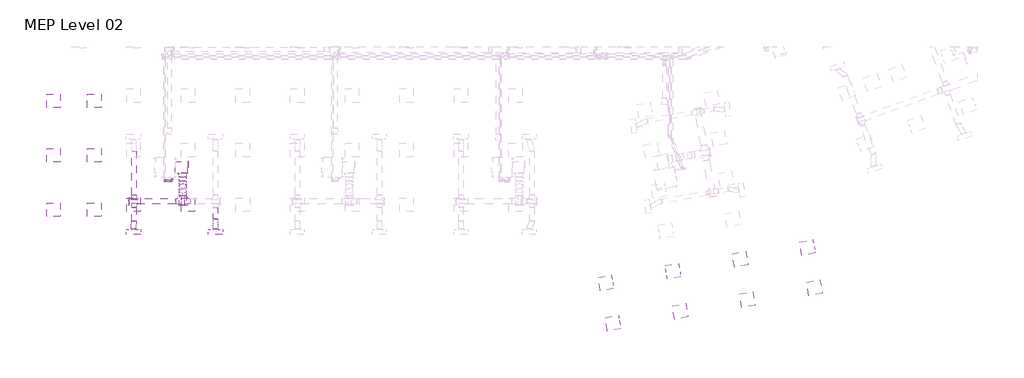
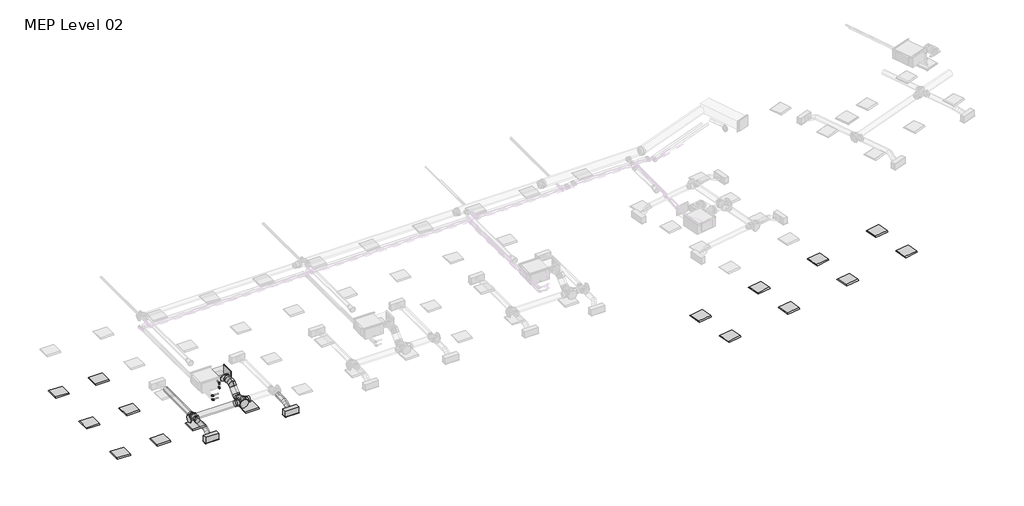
# One storey, part 1 of 26: 16 light fixtures, 10 duct fittings, 10 duct segments, 4 pipe fittings, 4 pipe segments, 2 air terminals.
"""IFC4 building model written with IfcOpenShell, lengths in millimetres."""

from ifc_helpers import new_model, si_unit, point, frame, frame_2d, origin, place, context, project, spatial, polyline, circle_curve, ellipse_curve, trimmed, segment, composite_curve, outline, extrude, transform, mapped, element, save
from ifc_brep_helpers import plane_surface, cylinder_surface, advanced_brep
from components import supply_diffuser_with_plenum_linear_slot_hosted_8c379eed, dw144_rectangular_blank_end_standard_8fde7d16, dw144_round_blank_end_standard_f82b0856, dw144_round_blank_end_standard_9aa061e7, dw144_round_segmented_bend_slip_joint_standard_8b80c5ae, dw144_round_shoe_branch_slip_joint_standard_15a2edd8, dw144_round_shoe_branch_slip_joint_standard_7ba9e4ed, dw144_round_shoe_branch_slip_joint_standard_67b64720, light_fixture_600x600_230_1c7c1157, light_fixture_600x600_230_b730b5ca, elbow_threaded_gmi_standard_b4aa7741

model = new_model("IFC4")

# Units and contexts
model_context = context("Model", 3, world=origin())
ifc_project = project(units=[si_unit("LENGTHUNIT", "METRE", prefix="MILLI")], contexts=[model_context])

# Site, building, storey
site = spatial("IfcSite", under=ifc_project)
building = spatial("IfcBuilding", under=site)
storey = spatial("IfcBuildingStorey", under=building, Name="MEP Level 02", Elevation=7800.0)

# Air terminals
placement = place(None, origin())
supply_diffuser_with_plenum_linear_slot_hosted_shape = supply_diffuser_with_plenum_linear_slot_hosted_8c379eed(model_context)
element("IfcAirTerminal", 1, ObjectType="Supply Diffuser with Plenum - Linear Slot - Hosted : 600mmx193.8mm-200 In Inlet  4-Slot", at=placement, inside=storey, context=model_context, shape_type="MappedRepresentation", body=[
    mapped(supply_diffuser_with_plenum_linear_slot_hosted_shape, transform((9162.2000027, 963.2000004, 10600.0), x_axis=(1.0, 0.0, 0.0), y_axis=(0.0, -1.0, 0.0), z_axis=(0.0, 0.0, -1.0))),
])
element("IfcAirTerminal", 2, ObjectType="Supply Diffuser with Plenum - Linear Slot - Hosted : 600mmx193.8mm-200 In Inlet  4-Slot", at=placement, inside=storey, context=model_context, shape_type="MappedRepresentation", body=[
    mapped(supply_diffuser_with_plenum_linear_slot_hosted_shape, transform((12762.2000027, 963.2000004, 10600.0), x_axis=(1.0, 0.0, 0.0), y_axis=(0.0, -1.0, 0.0), z_axis=(0.0, 0.0, -1.0))),
])

# Duct fittings
dw144_rectangular_blank_end_standard_shape = dw144_rectangular_blank_end_standard_8fde7d16(model_context)
element("IfcDuctFitting", 3, ObjectType="DW144 Rectangular Blank End : Standard", at=placement, inside=storey, context=model_context, shape_type="MappedRepresentation", body=[
    mapped(dw144_rectangular_blank_end_standard_shape, transform((11546.2561025, 3806.0000004, 11276.3911538), x_axis=(1.0, 0.0, 0.0), y_axis=(0.0, 1.0, 0.0), z_axis=(0.0, 0.0, 1.0))),
])
dw144_round_blank_end_standard_shape = dw144_round_blank_end_standard_f82b0856(model_context)
element("IfcDuctFitting", 4, ObjectType="DW144 Round Blank End : Standard", at=placement, inside=storey, context=model_context, shape_type="MappedRepresentation", body=[
    mapped(dw144_round_blank_end_standard_shape, transform((11331.4561025, 2142.9916128, 10872.2088531), x_axis=(0.0, -1.0, 0.0), y_axis=(1.0, 0.0, 0.0), z_axis=(0.0, 0.0, 1.0))),
])
dw144_round_blank_end_standard_2_shape = dw144_round_blank_end_standard_9aa061e7(model_context)
element("IfcDuctFitting", 5, ObjectType="DW144 Round Blank End : Standard", at=placement, inside=storey, context=model_context, shape_type="MappedRepresentation", body=[
    mapped(dw144_round_blank_end_standard_2_shape, transform((8961.4561025, 2306.5018192, 10872.2088531), x_axis=(-1.0, 0.0, 0.0), y_axis=(0.0, -1.0, 0.0), z_axis=(0.0, 0.0, 1.0))),
])
dw144_round_segmented_bend_slip_joint_standard_shape = dw144_round_segmented_bend_slip_joint_standard_8b80c5ae(model_context)
element("IfcDuctFitting", 6, ObjectType="DW144 Round Segmented Bend - Slip Joint : Standard", at=placement, inside=storey, context=model_context, shape_type="MappedRepresentation", body=[
    mapped(dw144_round_segmented_bend_slip_joint_standard_shape, transform((11331.4561025, 2678.6338536, 10872.2088531), x_axis=(0.0, -0.7071067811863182, -0.7071067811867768), y_axis=(0.0, 0.7071067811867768, -0.7071067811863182), z_axis=(1.0, 0.0, 0.0))),
])
element("IfcDuctFitting", 7, ObjectType="DW144 Round Segmented Bend - Slip Joint : Standard", at=placement, inside=storey, context=model_context, shape_type="MappedRepresentation", body=[
    mapped(dw144_round_segmented_bend_slip_joint_standard_shape, transform((11331.4561025, 3076.0000004, 11269.575), x_axis=(0.0, -1.0, 0.0), y_axis=(0.0, 0.0, 1.0), z_axis=(-1.0, 0.0, 0.0))),
])
dw144_round_shoe_branch_slip_joint_standard_shape = dw144_round_shoe_branch_slip_joint_standard_15a2edd8(model_context)
element("IfcDuctFitting", 8, ObjectType="DW144 Round Shoe Branch - Slip Joint : Standard", at=placement, inside=storey, context=model_context, shape_type="MappedRepresentation", body=[
    mapped(dw144_round_shoe_branch_slip_joint_standard_shape, transform((9173.9000022, 2181.5018192, 10872.2088531), x_axis=(0.0, -1.0, 0.0), y_axis=(-1.0, 0.0, 0.0), z_axis=(0.0, 0.0, -1.0))),
])
element("IfcDuctFitting", 9, ObjectType="DW144 Round Shoe Branch - Slip Joint : Standard", at=placement, inside=storey, context=model_context, shape_type="MappedRepresentation", body=[
    mapped(dw144_round_shoe_branch_slip_joint_standard_shape, transform((9173.9000022, 2431.5018192, 10872.2088531), x_axis=(0.0, 1.0, 0.0), y_axis=(-1.0, 0.0, 0.0), z_axis=(0.0, 0.0, 1.0))),
])
dw144_round_shoe_branch_slip_joint_standard_2_shape = dw144_round_shoe_branch_slip_joint_standard_7ba9e4ed(model_context)
element("IfcDuctFitting", 10, ObjectType="DW144 Round Shoe Branch - Slip Joint : Standard", at=placement, inside=storey, context=model_context, shape_type="MappedRepresentation", body=[
    mapped(dw144_round_shoe_branch_slip_joint_standard_2_shape, transform((11331.4561025, 3556.0000004, 11269.575), x_axis=(0.0, -1.0, 0.0), y_axis=(-1.0, 0.0, 0.0), z_axis=(0.0, 0.0, -1.0))),
])
dw144_round_shoe_branch_slip_joint_standard_3_shape = dw144_round_shoe_branch_slip_joint_standard_67b64720(model_context)
element("IfcDuctFitting", 11, ObjectType="DW144 Round Shoe Branch - Slip Joint : Standard", at=placement, inside=storey, context=model_context, shape_type="MappedRepresentation", body=[
    mapped(dw144_round_shoe_branch_slip_joint_standard_3_shape, transform((11481.4561025, 2306.5018192, 10872.2088531), x_axis=(1.0, 0.0, 0.0), y_axis=(0.0, -1.0, 0.0), z_axis=(0.0, 0.0, -1.0))),
])
element("IfcDuctFitting", 12, ObjectType="DW144 Round Shoe Branch - Slip Joint : Standard", at=placement, inside=storey, context=model_context, shape_type="MappedRepresentation", body=[
    mapped(dw144_round_shoe_branch_slip_joint_standard_3_shape, transform((11181.4561025, 2306.5018192, 10872.2088531), x_axis=(-1.0, 0.0, 0.0), y_axis=(0.0, -1.0, 0.0), z_axis=(0.0, 0.0, 1.0))),
])

# Duct segments
element("IfcDuctSegment", 13, ObjectType="DW144 Flanged Med Radius Bend / Shoe Branch", at=placement, inside=storey, context=model_context, shape_type="SweptSolid", body=[
    extrude(outline(polyline([(10993.0441119, 3556.0000004), (10993.0441119, 4056.0000004), (11546.2561025, 4056.0000004), (11546.2561025, 3556.0000004), (10993.0441119, 3556.0000004)])), frame((0.0, 0.0, 11101.3911538), z_axis=(0.0, 0.0, 1.0), x_axis=(1.0, 0.0, 0.0)), (0.0, 0.0, 1.0), 350.0),
])
element("IfcDuctSegment", 14, ObjectType="DW144 Segmented Bend / Shoe Branch", at=placement, inside=storey, context=model_context, shape_type="SweptSolid", body=[
    extrude(outline(composite_curve([segment(trimmed(circle_curve(frame_2d((11269.575, 11331.4561025)), 150.0), [point((11269.575, 11181.4561025))], [point((11119.575, 11331.4561025))], False, "CARTESIAN"), True, "CONTINUOUS"), segment(trimmed(circle_curve(frame_2d((11269.575, 11331.4561025)), 150.0), [point((11119.575, 11331.4561025))], [point((11269.575, 11481.4561025))], False, "CARTESIAN"), True, "CONTINUOUS"), segment(trimmed(circle_curve(frame_2d((11269.575, 11331.4561025)), 150.0), [point((11269.575, 11481.4561025))], [point((11419.575, 11331.4561025))], False, "CARTESIAN"), True, "CONTINUOUS"), segment(trimmed(circle_curve(frame_2d((11269.575, 11331.4561025)), 150.0), [point((11419.575, 11331.4561025))], [point((11269.575, 11181.4561025))], False, "CARTESIAN"), True, "CONTINUOUS")], self_intersect=False)), frame((0.0, 3200.2640691, 0.0), z_axis=(0.0, 1.0, 0.0), x_axis=(0.0, 0.0, 1.0)), (0.0, 0.0, 1.0), 180.7359313),
])
element("IfcDuctSegment", 15, ObjectType="DW144 Segmented Bend / Shoe Branch", at=placement, inside=storey, context=model_context, shape_type="SweptSolid", body=[
    extrude(outline(composite_curve([segment(trimmed(circle_curve(frame_2d((10872.2088531, 11331.4561025)), 150.0), [point((10872.2088531, 11181.4561025))], [point((10722.2088531, 11331.4561025))], False, "CARTESIAN"), True, "CONTINUOUS"), segment(trimmed(circle_curve(frame_2d((10872.2088531, 11331.4561025)), 150.0), [point((10722.2088531, 11331.4561025))], [point((10872.2088531, 11481.4561025))], False, "CARTESIAN"), True, "CONTINUOUS"), segment(trimmed(circle_curve(frame_2d((10872.2088531, 11331.4561025)), 150.0), [point((10872.2088531, 11481.4561025))], [point((11022.2088531, 11331.4561025))], False, "CARTESIAN"), True, "CONTINUOUS"), segment(trimmed(circle_curve(frame_2d((10872.2088531, 11331.4561025)), 150.0), [point((11022.2088531, 11331.4561025))], [point((10872.2088531, 11181.4561025))], False, "CARTESIAN"), True, "CONTINUOUS")], self_intersect=False)), frame((0.0, 2142.9916128, 0.0), z_axis=(0.0, 1.0, 0.0), x_axis=(0.0, 0.0, 1.0)), (0.0, 0.0, 1.0), 411.3781721),
])
element("IfcDuctSegment", 16, ObjectType="DW144 Segmented Bend / Shoe Branch", at=placement, inside=storey, context=model_context, shape_type="SweptSolid", body=[
    extrude(outline(composite_curve([segment(trimmed(circle_curve(frame_2d((0.0, -150.0)), 150.0), [point((-150.0, -150.0))], [point((0.0, 0.0))], False, "CARTESIAN"), True, "CONTINUOUS"), segment(trimmed(circle_curve(frame_2d((0.0, -150.0)), 150.0), [point((0.0, 0.0))], [point((150.0, -150.0))], False, "CARTESIAN"), True, "CONTINUOUS"), segment(trimmed(circle_curve(frame_2d((0.0, -150.0)), 150.0), [point((150.0, -150.0))], [point((0.0, -300.0))], False, "CARTESIAN"), True, "CONTINUOUS"), segment(trimmed(circle_curve(frame_2d((0.0, -150.0)), 150.0), [point((0.0, -300.0))], [point((-150.0, -150.0))], False, "CARTESIAN"), True, "CONTINUOUS")], self_intersect=False)), frame((11331.4561025, 2872.5678364, 10854.0108016), z_axis=(0.0, 0.7071067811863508, 0.7071067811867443), x_axis=(1.0, 0.0, 0.0)), (0.0, 0.0, 1.0), 313.4324567),
])
element("IfcDuctSegment", 17, ObjectType="DW144 Segmented Bend / Shoe Branch", at=placement, inside=storey, context=model_context, shape_type="SweptSolid", body=[
    extrude(outline(composite_curve([segment(trimmed(circle_curve(frame_2d((2306.5018192, 10872.2088531)), 125.0), [point((2431.5018192, 10872.2088531))], [point((2306.5018192, 10747.2088531))], False, "CARTESIAN"), True, "CONTINUOUS"), segment(trimmed(circle_curve(frame_2d((2306.5018192, 10872.2088531)), 125.0), [point((2306.5018192, 10747.2088531))], [point((2181.5018192, 10872.2088531))], False, "CARTESIAN"), True, "CONTINUOUS"), segment(trimmed(circle_curve(frame_2d((2306.5018192, 10872.2088531)), 125.0), [point((2181.5018192, 10872.2088531))], [point((2306.5018192, 10997.2088531))], False, "CARTESIAN"), True, "CONTINUOUS"), segment(trimmed(circle_curve(frame_2d((2306.5018192, 10872.2088531)), 125.0), [point((2306.5018192, 10997.2088531))], [point((2431.5018192, 10872.2088531))], False, "CARTESIAN"), True, "CONTINUOUS")], self_intersect=False)), frame((8961.4561025, 0.0, 0.0), z_axis=(1.0, 0.0, 0.0), x_axis=(0.0, 1.0, 0.0)), (0.0, 0.0, 1.0), 2045.0),
])
element("IfcDuctSegment", 18, ObjectType="DW144 Segmented Bend / Shoe Branch", at=placement, inside=storey, context=model_context, shape_type="SweptSolid", body=[
    extrude(outline(composite_curve([segment(trimmed(circle_curve(frame_2d((10872.2088531, 12773.9000022)), 100.0), [point((10872.2088531, 12673.9000022))], [point((10772.2088531, 12773.9000022))], False, "CARTESIAN"), True, "CONTINUOUS"), segment(trimmed(circle_curve(frame_2d((10872.2088531, 12773.9000022)), 100.0), [point((10772.2088531, 12773.9000022))], [point((10872.2088531, 12873.9000022))], False, "CARTESIAN"), True, "CONTINUOUS"), segment(trimmed(circle_curve(frame_2d((10872.2088531, 12773.9000022)), 100.0), [point((10872.2088531, 12873.9000022))], [point((10972.2088531, 12773.9000022))], False, "CARTESIAN"), True, "CONTINUOUS"), segment(trimmed(circle_curve(frame_2d((10872.2088531, 12773.9000022)), 100.0), [point((10972.2088531, 12773.9000022))], [point((10872.2088531, 12673.9000022))], False, "CARTESIAN"), True, "CONTINUOUS")], self_intersect=False)), frame((0.0, 1521.5018192, 0.0), z_axis=(0.0, 1.0, 0.0), x_axis=(0.0, 0.0, 1.0)), (0.0, 0.0, 1.0), 510.0),
])
element("IfcDuctSegment", 19, ObjectType="DW144 Segmented Bend / Shoe Branch", at=placement, inside=storey, context=model_context, shape_type="SweptSolid", body=[
    extrude(outline(composite_curve([segment(trimmed(circle_curve(frame_2d((10872.2088531, 9173.9000022)), 100.0), [point((10872.2088531, 9273.9000022))], [point((10972.2088531, 9173.9000022))], False, "CARTESIAN"), True, "CONTINUOUS"), segment(trimmed(circle_curve(frame_2d((10872.2088531, 9173.9000022)), 100.0), [point((10972.2088531, 9173.9000022))], [point((10872.2088531, 9073.9000022))], False, "CARTESIAN"), True, "CONTINUOUS"), segment(trimmed(circle_curve(frame_2d((10872.2088531, 9173.9000022)), 100.0), [point((10872.2088531, 9073.9000022))], [point((10772.2088531, 9173.9000022))], False, "CARTESIAN"), True, "CONTINUOUS"), segment(trimmed(circle_curve(frame_2d((10872.2088531, 9173.9000022)), 100.0), [point((10772.2088531, 9173.9000022))], [point((10872.2088531, 9273.9000022))], False, "CARTESIAN"), True, "CONTINUOUS")], self_intersect=False)), frame((0.0, 1441.5018192, 0.0), z_axis=(0.0, 1.0, 0.0), x_axis=(0.0, 0.0, 1.0)), (0.0, 0.0, 1.0), 590.0),
])
element("IfcDuctSegment", 20, ObjectType="DW144 Segmented Bend / Shoe Branch", at=placement, inside=storey, context=model_context, shape_type="SweptSolid", body=[
    extrude(outline(composite_curve([segment(trimmed(circle_curve(frame_2d((10872.2088531, 9173.9000022)), 100.0), [point((10872.2088531, 9273.9000022))], [point((10972.2088531, 9173.9000022))], False, "CARTESIAN"), True, "CONTINUOUS"), segment(trimmed(circle_curve(frame_2d((10872.2088531, 9173.9000022)), 100.0), [point((10972.2088531, 9173.9000022))], [point((10872.2088531, 9073.9000022))], False, "CARTESIAN"), True, "CONTINUOUS"), segment(trimmed(circle_curve(frame_2d((10872.2088531, 9173.9000022)), 100.0), [point((10872.2088531, 9073.9000022))], [point((10772.2088531, 9173.9000022))], False, "CARTESIAN"), True, "CONTINUOUS"), segment(trimmed(circle_curve(frame_2d((10872.2088531, 9173.9000022)), 100.0), [point((10772.2088531, 9173.9000022))], [point((10872.2088531, 9273.9000022))], False, "CARTESIAN"), True, "CONTINUOUS")], self_intersect=False)), frame((0.0, 2581.5018192, 0.0), z_axis=(0.0, 1.0, 0.0), x_axis=(0.0, 0.0, 1.0)), (0.0, 0.0, 1.0), 1950.0),
])
element("IfcDuctSegment", 21, ObjectType="Flex - Round", at=placement, inside=storey, context=model_context, shape_type="AdvancedBrep", body=[
    advanced_brep(
    [(9273.9000022, 1441.5018192, 10872.2088531), (9173.9000022, 1441.5018192, 10772.2088531), (9073.9000022, 1441.5018192, 10872.2088531), (9173.9000022, 1441.5018192, 10972.2088531), (9273.9000022, 1419.9886644, 10872.2088531), (9173.9000022, 1434.4041273, 10772.2088531), (9073.9000022, 1422.5932881, 10872.2088531), (9173.9000022, 1408.1778252, 10972.2088531), (9262.2000027, 1092.1000004, 10754.4), (9162.2000027, 1092.1000004, 10854.4), (9062.2000027, 1092.1000004, 10754.4), (9162.2000027, 1092.1000004, 10654.4), (9272.0154345, 1348.8904029, 10853.2328893), (9172.6402079, 1386.8764181, 10759.5238159), (9072.1283201, 1355.7538157, 10854.3695504), (9171.5035467, 1317.7678004, 10948.0786237), (9267.9552415, 1262.5544078, 10812.3502664), (9169.0041626, 1309.5595036, 10722.9119919), (9068.1447633, 1271.0474118, 10814.2585867), (9167.0958423, 1224.0423161, 10903.6968612), (9263.9716847, 1177.8480039, 10772.2393027), (9164.5964582, 1215.8340192, 10678.5302294), (9064.0845704, 1184.7114168, 10773.3759639), (9163.459797, 1146.7254015, 10867.0850372), (9262.2000027, 1111.0085316, 10754.4), (9162.2000027, 1125.4239944, 10654.4), (9062.2000027, 1113.6131552, 10754.4), (9162.2000027, 1099.1976924, 10854.4)],
    [
        (0, 1, circle_curve(frame((9173.9000022, 1441.5018192, 10872.2088531), z_axis=(0.0, 1.0, 0.0), x_axis=(1.0, 0.0, 0.0)), 100.0)),
        (1, 2, circle_curve(frame((9173.9000022, 1441.5018192, 10872.2088531), z_axis=(0.0, 1.0, 0.0), x_axis=(1.0, 0.0, 0.0)), 100.0)),
        (2, 3, circle_curve(frame((9173.9000022, 1441.5018192, 10872.2088531), z_axis=(0.0, 1.0, 0.0), x_axis=(1.0, 0.0, 0.0)), 100.0)),
        (3, 0, circle_curve(frame((9173.9000022, 1441.5018192, 10872.2088531), z_axis=(0.0, 1.0, 0.0), x_axis=(1.0, 0.0, 0.0)), 100.0)),
        (0, 4),
        (4, 5, ellipse_curve(frame((9173.9000022, 1421.2909763, 10872.2088531), z_axis=(0.01291149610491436, 0.9914289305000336, 0.13000757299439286), x_axis=(-0.09798018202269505, 0.1306471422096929, -0.9865754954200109)), 100.8645168, 100.0)),
        (5, 1),
        (5, 6, ellipse_curve(frame((9173.9000022, 1421.2909763, 10872.2088531), z_axis=(0.01291149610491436, 0.9914289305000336, 0.13000757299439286), x_axis=(-0.09798018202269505, 0.1306471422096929, -0.9865754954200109)), 100.8645168, 100.0)),
        (6, 2),
        (6, 7, ellipse_curve(frame((9173.9000022, 1421.2909763, 10872.2088531), z_axis=(0.01291149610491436, 0.9914289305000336, 0.13000757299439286), x_axis=(-0.09798018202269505, 0.1306471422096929, -0.9865754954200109)), 100.8645168, 100.0)),
        (7, 3),
        (7, 4, ellipse_curve(frame((9173.9000022, 1421.2909763, 10872.2088531), z_axis=(0.01291149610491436, 0.9914289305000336, 0.13000757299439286), x_axis=(-0.09798018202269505, 0.1306471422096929, -0.9865754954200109)), 100.8645168, 100.0)),
        (8, 9, circle_curve(frame((9162.2000027, 1092.1000004, 10754.4), z_axis=(0.0, -1.0, 0.0), x_axis=(1.0, 0.0, 0.0)), 100.0)),
        (9, 10, circle_curve(frame((9162.2000027, 1092.1000004, 10754.4), z_axis=(0.0, -1.0, 0.0), x_axis=(1.0, 0.0, 0.0)), 100.0)),
        (10, 11, circle_curve(frame((9162.2000027, 1092.1000004, 10754.4), z_axis=(0.0, -1.0, 0.0), x_axis=(1.0, 0.0, 0.0)), 100.0)),
        (11, 8, circle_curve(frame((9162.2000027, 1092.1000004, 10754.4), z_axis=(0.0, -1.0, 0.0), x_axis=(1.0, 0.0, 0.0)), 100.0)),
        (4, 12),
        (12, 13, ellipse_curve(frame((9172.0718773, 1352.3221093, 10853.8012198), z_axis=(0.03417490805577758, 0.9383065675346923, 0.34411169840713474), x_axis=(-0.09273024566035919, 0.34580454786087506, -0.9337131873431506)), 100.4159667, 100.0)),
        (13, 5),
        (13, 14, ellipse_curve(frame((9172.0718773, 1352.3221093, 10853.8012198), z_axis=(0.03417490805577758, 0.9383065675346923, 0.34411169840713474), x_axis=(-0.09273024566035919, 0.34580454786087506, -0.9337131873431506)), 100.4159667, 100.0)),
        (14, 6),
        (14, 15, ellipse_curve(frame((9172.0718773, 1352.3221093, 10853.8012198), z_axis=(0.03417490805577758, 0.9383065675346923, 0.34411169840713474), x_axis=(-0.09273024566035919, 0.34580454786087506, -0.9337131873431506)), 100.4159667, 100.0)),
        (15, 7),
        (15, 12, ellipse_curve(frame((9172.0718773, 1352.3221093, 10853.8012198), z_axis=(0.03417490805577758, 0.9383065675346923, 0.34411169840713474), x_axis=(-0.09273024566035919, 0.34580454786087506, -0.9337131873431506)), 100.4159667, 100.0)),
        (12, 16),
        (16, 17, circle_curve(frame((9168.0500024, 1266.8009098, 10813.3044266), z_axis=(0.04246501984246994, 0.9029767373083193, 0.42758593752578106), x_axis=(0.999052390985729, -0.042465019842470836, -0.009541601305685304)), 100.0)),
        (17, 13),
        (17, 18, circle_curve(frame((9168.0500024, 1266.8009098, 10813.3044266), z_axis=(0.04246501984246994, 0.9029767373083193, 0.42758593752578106), x_axis=(0.999052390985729, -0.042465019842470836, -0.009541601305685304)), 100.0)),
        (18, 14),
        (18, 19, circle_curve(frame((9168.0500024, 1266.8009098, 10813.3044266), z_axis=(0.04246501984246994, 0.9029767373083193, 0.42758593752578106), x_axis=(0.999052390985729, -0.042465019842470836, -0.009541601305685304)), 100.0)),
        (19, 15),
        (19, 16, circle_curve(frame((9168.0500024, 1266.8009098, 10813.3044266), z_axis=(0.04246501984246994, 0.9029767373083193, 0.42758593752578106), x_axis=(0.999052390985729, -0.042465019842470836, -0.009541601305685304)), 100.0)),
        (16, 20),
        (20, 21, ellipse_curve(frame((9164.0281276, 1181.2797104, 10772.8076333), z_axis=(0.03417490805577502, 0.9383065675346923, 0.3441116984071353), x_axis=(0.09273024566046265, -0.34580454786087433, 0.9337131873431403)), 100.4159667, 100.0)),
        (21, 17),
        (21, 22, ellipse_curve(frame((9164.0281276, 1181.2797104, 10772.8076333), z_axis=(0.03417490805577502, 0.9383065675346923, 0.3441116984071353), x_axis=(0.09273024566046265, -0.34580454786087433, 0.9337131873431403)), 100.4159667, 100.0)),
        (22, 18),
        (22, 23, ellipse_curve(frame((9164.0281276, 1181.2797104, 10772.8076333), z_axis=(0.03417490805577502, 0.9383065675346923, 0.3441116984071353), x_axis=(0.09273024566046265, -0.34580454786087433, 0.9337131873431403)), 100.4159667, 100.0)),
        (23, 19),
        (23, 20, ellipse_curve(frame((9164.0281276, 1181.2797104, 10772.8076333), z_axis=(0.03417490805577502, 0.9383065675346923, 0.3441116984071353), x_axis=(0.09273024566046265, -0.34580454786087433, 0.9337131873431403)), 100.4159667, 100.0)),
        (20, 24),
        (24, 25, ellipse_curve(frame((9162.2000027, 1112.3108434, 10754.4), z_axis=(0.012911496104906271, 0.9914289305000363, 0.13000757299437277), x_axis=(0.09798018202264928, -0.1306471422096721, 0.9865754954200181)), 100.8645168, 100.0)),
        (25, 21),
        (25, 26, ellipse_curve(frame((9162.2000027, 1112.3108434, 10754.4), z_axis=(0.012911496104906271, 0.9914289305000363, 0.13000757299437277), x_axis=(0.09798018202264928, -0.1306471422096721, 0.9865754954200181)), 100.8645168, 100.0)),
        (26, 22),
        (26, 27, ellipse_curve(frame((9162.2000027, 1112.3108434, 10754.4), z_axis=(0.012911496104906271, 0.9914289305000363, 0.13000757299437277), x_axis=(0.09798018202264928, -0.1306471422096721, 0.9865754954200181)), 100.8645168, 100.0)),
        (27, 23),
        (27, 24, ellipse_curve(frame((9162.2000027, 1112.3108434, 10754.4), z_axis=(0.012911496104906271, 0.9914289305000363, 0.13000757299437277), x_axis=(0.09798018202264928, -0.1306471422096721, 0.9865754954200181)), 100.8645168, 100.0)),
        (24, 8),
        (11, 25),
        (10, 26),
        (9, 27),
    ],
    [
        plane_surface(frame((9073.9000022, 1441.5018192, 10872.2088531), z_axis=(0.0, 1.0, 0.0), x_axis=(0.0, 0.0, -1.0))),
        cylinder_surface(frame((9173.9000022, 1441.5018192, 10872.2088531), z_axis=(0.0, 1.0, 0.0), x_axis=(1.0, 0.0, 0.0)), 100.0),
        plane_surface(frame((9062.2000027, 1092.1000004, 10754.4), z_axis=(0.0, -1.0, 0.0), x_axis=(0.0, 0.0, -1.0))),
        cylinder_surface(frame((9173.9000022, 1421.2909763, 10872.2088531), z_axis=(0.02560166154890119, 0.9658626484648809, 0.25778653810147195), x_axis=(0.9996665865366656, -0.02560166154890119, -0.0033571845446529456)), 100.0),
        cylinder_surface(frame((9172.0718773, 1352.3221093, 10853.8012198), z_axis=(0.04246501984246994, 0.9029767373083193, 0.42758593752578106), x_axis=(0.999052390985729, -0.042465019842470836, -0.009541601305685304)), 100.0),
        cylinder_surface(frame((9168.0500024, 1266.8009098, 10813.3044266), z_axis=(0.042465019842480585, 0.902976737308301, 0.42758593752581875), x_axis=(0.9990523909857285, -0.042465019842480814, -0.009541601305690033)), 100.0),
        cylinder_surface(frame((9164.0281276, 1181.2797104, 10772.8076333), z_axis=(0.025601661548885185, 0.9658626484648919, 0.25778653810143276), x_axis=(0.9996665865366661, -0.025601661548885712, -0.00335718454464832)), 100.0),
        cylinder_surface(frame((9162.2000027, 1112.3108434, 10754.4), z_axis=(0.0, 1.0, 0.0), x_axis=(1.0, 0.0, 0.0)), 100.0),
    ],
    [
        (0, [[1, 2, 3, 4]]),
        (1, [[-1, 5, 6, 7]]),
        (1, [[-2, -7, 8, 9]]),
        (1, [[-3, -9, 10, 11]]),
        (1, [[-4, -11, 12, -5]]),
        (2, [[13, 14, 15, 16]]),
        (3, [[-6, 17, 18, 19]]),
        (3, [[-8, -19, 20, 21]]),
        (3, [[-10, -21, 22, 23]]),
        (3, [[-12, -23, 24, -17]]),
        (4, [[-18, 25, 26, 27]]),
        (4, [[-20, -27, 28, 29]]),
        (4, [[-22, -29, 30, 31]]),
        (4, [[-24, -31, 32, -25]]),
        (5, [[-26, 33, 34, 35]]),
        (5, [[-28, -35, 36, 37]]),
        (5, [[-30, -37, 38, 39]]),
        (5, [[-32, -39, 40, -33]]),
        (6, [[-34, 41, 42, 43]]),
        (6, [[-36, -43, 44, 45]]),
        (6, [[-38, -45, 46, 47]]),
        (6, [[-40, -47, 48, -41]]),
        (7, [[-42, 49, -16, 50]]),
        (7, [[-44, -50, -15, 51]]),
        (7, [[-46, -51, -14, 52]]),
        (7, [[-48, -52, -13, -49]]),
    ],
),
])
element("IfcDuctSegment", 22, ObjectType="Flex - Round", at=placement, inside=storey, context=model_context, shape_type="AdvancedBrep", body=[
    advanced_brep(
    [(12873.9000022, 1521.5018192, 10872.2088531), (12773.9000022, 1521.5018192, 10772.2088531), (12673.9000022, 1521.5018192, 10872.2088531), (12773.9000022, 1521.5018192, 10972.2088531), (12873.9000022, 1503.8483968, 10872.2088531), (12773.9000022, 1514.716186, 10772.2088531), (12673.9000022, 1505.8120174, 10872.2088531), (12773.9000022, 1494.9442282, 10972.2088531), (12862.2000027, 1092.1000004, 10754.4), (12762.2000027, 1092.1000004, 10854.4), (12662.2000027, 1092.1000004, 10754.4), (12762.2000027, 1092.1000004, 10654.4), (12872.0365094, 1409.8841765, 10853.4450953), (12772.4280018, 1440.492465, 10757.3870846), (12672.1072452, 1415.4145623, 10854.1573443), (12771.7157528, 1384.8062738, 10950.2153551), (12867.9849454, 1303.2543522, 10812.6493581), (12768.7050709, 1342.5116705, 10719.9003985), (12668.1150595, 1310.3474674, 10813.9594951), (12767.3949339, 1271.0901491, 10906.7084546), (12863.9927597, 1198.1872573, 10772.4515088), (12764.3842521, 1228.7955458, 10676.3934981), (12664.0634955, 1203.7176431, 10773.1637578), (12763.6720031, 1173.1093547, 10869.2217685), (12862.2000027, 1107.7898022, 10754.4), (12762.2000027, 1118.6575914, 10654.4), (12662.2000027, 1109.7534229, 10754.4), (12762.2000027, 1098.8856336, 10854.4)],
    [
        (0, 1, circle_curve(frame((12773.9000022, 1521.5018192, 10872.2088531), z_axis=(0.0, 1.0, 0.0), x_axis=(1.0, 0.0, 0.0)), 100.0)),
        (1, 2, circle_curve(frame((12773.9000022, 1521.5018192, 10872.2088531), z_axis=(0.0, 1.0, 0.0), x_axis=(1.0, 0.0, 0.0)), 100.0)),
        (2, 3, circle_curve(frame((12773.9000022, 1521.5018192, 10872.2088531), z_axis=(0.0, 1.0, 0.0), x_axis=(1.0, 0.0, 0.0)), 100.0)),
        (3, 0, circle_curve(frame((12773.9000022, 1521.5018192, 10872.2088531), z_axis=(0.0, 1.0, 0.0), x_axis=(1.0, 0.0, 0.0)), 100.0)),
        (0, 4),
        (4, 5, ellipse_curve(frame((12773.9000022, 1504.8302071, 10872.2088531), z_axis=(0.009770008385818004, 0.9951014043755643, 0.09837551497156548), x_axis=(-0.09834312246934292, 0.09885947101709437, -0.9902299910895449)), 100.492271, 100.0)),
        (5, 1),
        (5, 6, ellipse_curve(frame((12773.9000022, 1504.8302071, 10872.2088531), z_axis=(0.009770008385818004, 0.9951014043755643, 0.09837551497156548), x_axis=(-0.09834312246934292, 0.09885947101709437, -0.9902299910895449)), 100.492271, 100.0)),
        (6, 2),
        (6, 7, ellipse_curve(frame((12773.9000022, 1504.8302071, 10872.2088531), z_axis=(0.009770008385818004, 0.9951014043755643, 0.09837551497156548), x_axis=(-0.09834312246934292, 0.09885947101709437, -0.9902299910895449)), 100.492271, 100.0)),
        (7, 3),
        (7, 4, ellipse_curve(frame((12773.9000022, 1504.8302071, 10872.2088531), z_axis=(0.009770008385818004, 0.9951014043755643, 0.09837551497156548), x_axis=(-0.09834312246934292, 0.09885947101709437, -0.9902299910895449)), 100.492271, 100.0)),
        (8, 9, circle_curve(frame((12762.2000027, 1092.1000004, 10754.4), z_axis=(0.0, -1.0, 0.0), x_axis=(1.0, 0.0, 0.0)), 100.0)),
        (9, 10, circle_curve(frame((12762.2000027, 1092.1000004, 10754.4), z_axis=(0.0, -1.0, 0.0), x_axis=(1.0, 0.0, 0.0)), 100.0)),
        (10, 11, circle_curve(frame((12762.2000027, 1092.1000004, 10754.4), z_axis=(0.0, -1.0, 0.0), x_axis=(1.0, 0.0, 0.0)), 100.0)),
        (11, 8, circle_curve(frame((12762.2000027, 1092.1000004, 10754.4), z_axis=(0.0, -1.0, 0.0), x_axis=(1.0, 0.0, 0.0)), 100.0)),
        (4, 12),
        (12, 13, ellipse_curve(frame((12772.0718773, 1412.6493694, 10853.8012198), z_axis=(0.027553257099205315, 0.960348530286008, 0.27743741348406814), x_axis=(-0.09490859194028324, 0.278802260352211, -0.955647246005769)), 100.358114, 100.0)),
        (13, 5),
        (13, 14, ellipse_curve(frame((12772.0718773, 1412.6493694, 10853.8012198), z_axis=(0.027553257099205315, 0.960348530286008, 0.27743741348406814), x_axis=(-0.09490859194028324, 0.278802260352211, -0.955647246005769)), 100.358114, 100.0)),
        (14, 6),
        (14, 15, ellipse_curve(frame((12772.0718773, 1412.6493694, 10853.8012198), z_axis=(0.027553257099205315, 0.960348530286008, 0.27743741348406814), x_axis=(-0.09490859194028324, 0.278802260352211, -0.955647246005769)), 100.358114, 100.0)),
        (15, 7),
        (15, 12, ellipse_curve(frame((12772.0718773, 1412.6493694, 10853.8012198), z_axis=(0.027553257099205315, 0.960348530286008, 0.27743741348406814), x_axis=(-0.09490859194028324, 0.278802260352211, -0.955647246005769)), 100.358114, 100.0)),
        (12, 16),
        (16, 17, circle_curve(frame((12768.0500024, 1306.8009098, 10813.3044266), z_axis=(0.035465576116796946, 0.9333897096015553, 0.3571076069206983), x_axis=(0.9993494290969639, -0.03546557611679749, -0.006550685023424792)), 100.0)),
        (17, 13),
        (17, 18, circle_curve(frame((12768.0500024, 1306.8009098, 10813.3044266), z_axis=(0.035465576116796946, 0.9333897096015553, 0.3571076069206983), x_axis=(0.9993494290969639, -0.03546557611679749, -0.006550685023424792)), 100.0)),
        (18, 14),
        (18, 19, circle_curve(frame((12768.0500024, 1306.8009098, 10813.3044266), z_axis=(0.035465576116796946, 0.9333897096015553, 0.3571076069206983), x_axis=(0.9993494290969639, -0.03546557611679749, -0.006550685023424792)), 100.0)),
        (19, 15),
        (19, 16, circle_curve(frame((12768.0500024, 1306.8009098, 10813.3044266), z_axis=(0.035465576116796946, 0.9333897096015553, 0.3571076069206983), x_axis=(0.9993494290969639, -0.03546557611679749, -0.006550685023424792)), 100.0)),
        (16, 20),
        (20, 21, ellipse_curve(frame((12764.0281276, 1200.9524502, 10772.8076333), z_axis=(0.027553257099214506, 0.9603485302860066, 0.27743741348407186), x_axis=(0.09490859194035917, -0.27880226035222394, 0.9556472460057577)), 100.358114, 100.0)),
        (21, 17),
        (21, 22, ellipse_curve(frame((12764.0281276, 1200.9524502, 10772.8076333), z_axis=(0.027553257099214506, 0.9603485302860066, 0.27743741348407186), x_axis=(0.09490859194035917, -0.27880226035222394, 0.9556472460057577)), 100.358114, 100.0)),
        (22, 18),
        (22, 23, ellipse_curve(frame((12764.0281276, 1200.9524502, 10772.8076333), z_axis=(0.027553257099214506, 0.9603485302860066, 0.27743741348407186), x_axis=(0.09490859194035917, -0.27880226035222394, 0.9556472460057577)), 100.358114, 100.0)),
        (23, 19),
        (23, 20, ellipse_curve(frame((12764.0281276, 1200.9524502, 10772.8076333), z_axis=(0.027553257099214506, 0.9603485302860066, 0.27743741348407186), x_axis=(0.09490859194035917, -0.27880226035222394, 0.9556472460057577)), 100.358114, 100.0)),
        (20, 24),
        (24, 25, ellipse_curve(frame((12762.2000027, 1108.7716125, 10754.4), z_axis=(0.009770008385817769, 0.9951014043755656, 0.09837551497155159), x_axis=(0.09834312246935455, -0.09885947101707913, 0.9902299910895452)), 100.492271, 100.0)),
        (25, 21),
        (25, 26, ellipse_curve(frame((12762.2000027, 1108.7716125, 10754.4), z_axis=(0.009770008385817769, 0.9951014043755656, 0.09837551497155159), x_axis=(0.09834312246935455, -0.09885947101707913, 0.9902299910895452)), 100.492271, 100.0)),
        (26, 22),
        (26, 27, ellipse_curve(frame((12762.2000027, 1108.7716125, 10754.4), z_axis=(0.009770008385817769, 0.9951014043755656, 0.09837551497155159), x_axis=(0.09834312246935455, -0.09885947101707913, 0.9902299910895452)), 100.492271, 100.0)),
        (27, 23),
        (27, 24, ellipse_curve(frame((12762.2000027, 1108.7716125, 10754.4), z_axis=(0.009770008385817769, 0.9951014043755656, 0.09837551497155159), x_axis=(0.09834312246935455, -0.09885947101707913, 0.9902299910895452)), 100.492271, 100.0)),
        (24, 8),
        (11, 25),
        (10, 26),
        (9, 27),
    ],
    [
        plane_surface(frame((12673.9000022, 1521.5018192, 10872.2088531), z_axis=(0.0, 1.0, 0.0), x_axis=(0.0, 0.0, -1.0))),
        cylinder_surface(frame((12773.9000022, 1521.5018192, 10872.2088531), z_axis=(0.0, 1.0, 0.0), x_axis=(1.0, 0.0, 0.0)), 100.0),
        plane_surface(frame((12662.2000027, 1092.1000004, 10754.4), z_axis=(0.0, -1.0, 0.0), x_axis=(0.0, 0.0, -1.0))),
        cylinder_surface(frame((12773.9000022, 1504.8302071, 10872.2088531), z_axis=(0.019444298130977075, 0.9804536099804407, 0.19578722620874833), x_axis=(0.9998090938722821, -0.019444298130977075, -0.0019222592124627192)), 100.0),
        cylinder_surface(frame((12772.0718773, 1412.6493694, 10853.8012198), z_axis=(0.035465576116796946, 0.9333897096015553, 0.3571076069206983), x_axis=(0.9993494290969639, -0.03546557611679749, -0.006550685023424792)), 100.0),
        cylinder_surface(frame((12768.0500024, 1306.8009098, 10813.3044266), z_axis=(0.03546557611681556, 0.9333897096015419, 0.35710760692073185), x_axis=(0.9993494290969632, -0.03546557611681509, -0.006550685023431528)), 100.0),
        cylinder_surface(frame((12764.0281276, 1200.9524502, 10772.8076333), z_axis=(0.019444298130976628, 0.9804536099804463, 0.19578722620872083), x_axis=(0.9998090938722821, -0.019444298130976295, -0.0019222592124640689)), 100.0),
        cylinder_surface(frame((12762.2000027, 1108.7716125, 10754.4), z_axis=(0.0, 1.0, 0.0), x_axis=(1.0, 0.0, 0.0)), 100.0),
    ],
    [
        (0, [[1, 2, 3, 4]]),
        (1, [[-1, 5, 6, 7]]),
        (1, [[-2, -7, 8, 9]]),
        (1, [[-3, -9, 10, 11]]),
        (1, [[-4, -11, 12, -5]]),
        (2, [[13, 14, 15, 16]]),
        (3, [[-6, 17, 18, 19]]),
        (3, [[-8, -19, 20, 21]]),
        (3, [[-10, -21, 22, 23]]),
        (3, [[-12, -23, 24, -17]]),
        (4, [[-18, 25, 26, 27]]),
        (4, [[-20, -27, 28, 29]]),
        (4, [[-22, -29, 30, 31]]),
        (4, [[-24, -31, 32, -25]]),
        (5, [[-26, 33, 34, 35]]),
        (5, [[-28, -35, 36, 37]]),
        (5, [[-30, -37, 38, 39]]),
        (5, [[-32, -39, 40, -33]]),
        (6, [[-34, 41, 42, 43]]),
        (6, [[-36, -43, 44, 45]]),
        (6, [[-38, -45, 46, 47]]),
        (6, [[-40, -47, 48, -41]]),
        (7, [[-42, 49, -16, 50]]),
        (7, [[-44, -50, -15, 51]]),
        (7, [[-46, -51, -14, 52]]),
        (7, [[-48, -52, -13, -49]]),
    ],
),
])

# Light fixtures
light_fixture_600x600_230_shape = light_fixture_600x600_230_1c7c1157(model_context)
element("IfcLightFixture", 23, ObjectType="ELEKTRA Recessed Lighting Fixture : 600x600 - 230", at=placement, inside=storey, context=model_context, shape_type="MappedRepresentation", body=[
    mapped(light_fixture_600x600_230_shape, transform((29690.7658114, -1636.5707914, 10600.0), x_axis=(0.9848077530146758, 0.17364817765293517, 0.0), y_axis=(0.17364817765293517, -0.9848077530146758, 0.0), z_axis=(0.0, 0.0, -1.0))),
])
element("IfcLightFixture", 24, ObjectType="ELEKTRA Recessed Lighting Fixture : 600x600 - 230", at=placement, inside=storey, context=model_context, shape_type="MappedRepresentation", body=[
    mapped(light_fixture_600x600_230_shape, transform((32645.1890704, -1115.6262584, 10600.0), x_axis=(0.9848077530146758, 0.17364817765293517, 0.0), y_axis=(0.17364817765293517, -0.9848077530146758, 0.0), z_axis=(0.0, 0.0, -1.0))),
])
element("IfcLightFixture", 25, ObjectType="ELEKTRA Recessed Lighting Fixture : 600x600 - 230", at=placement, inside=storey, context=model_context, shape_type="MappedRepresentation", body=[
    mapped(light_fixture_600x600_230_shape, transform((35599.6123294, -594.6817255, 10600.0), x_axis=(0.9848077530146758, 0.17364817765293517, 0.0), y_axis=(0.17364817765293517, -0.9848077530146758, 0.0), z_axis=(0.0, 0.0, -1.0))),
])
element("IfcLightFixture", 26, ObjectType="ELEKTRA Recessed Lighting Fixture : 600x600 - 230", at=placement, inside=storey, context=model_context, shape_type="MappedRepresentation", body=[
    mapped(light_fixture_600x600_230_shape, transform((38554.0355885, -73.7371925, 10600.0), x_axis=(0.9848077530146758, 0.17364817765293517, 0.0), y_axis=(0.17364817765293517, -0.9848077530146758, 0.0), z_axis=(0.0, 0.0, -1.0))),
])
element("IfcLightFixture", 27, ObjectType="ELEKTRA Recessed Lighting Fixture : 600x600 - 230", at=placement, inside=storey, context=model_context, shape_type="MappedRepresentation", body=[
    mapped(light_fixture_600x600_230_shape, transform((30003.3325311, -3409.2247468, 10600.0), x_axis=(0.9848077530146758, 0.17364817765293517, 0.0), y_axis=(0.17364817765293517, -0.9848077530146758, 0.0), z_axis=(0.0, 0.0, -1.0))),
])
element("IfcLightFixture", 28, ObjectType="ELEKTRA Recessed Lighting Fixture : 600x600 - 230", at=placement, inside=storey, context=model_context, shape_type="MappedRepresentation", body=[
    mapped(light_fixture_600x600_230_shape, transform((35912.1790492, -2367.3356809, 10600.0), x_axis=(0.9848077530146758, 0.17364817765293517, 0.0), y_axis=(0.17364817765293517, -0.9848077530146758, 0.0), z_axis=(0.0, 0.0, -1.0))),
])
element("IfcLightFixture", 29, ObjectType="ELEKTRA Recessed Lighting Fixture : 600x600 - 230", at=placement, inside=storey, context=model_context, shape_type="MappedRepresentation", body=[
    mapped(light_fixture_600x600_230_shape, transform((38866.6023083, -1846.3911479, 10600.0), x_axis=(0.9848077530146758, 0.17364817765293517, 0.0), y_axis=(0.17364817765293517, -0.9848077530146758, 0.0), z_axis=(0.0, 0.0, -1.0))),
])
element("IfcLightFixture", 30, ObjectType="ELEKTRA Recessed Lighting Fixture : 600x600 - 230", at=placement, inside=storey, context=model_context, shape_type="MappedRepresentation", body=[
    mapped(light_fixture_600x600_230_shape, transform((11262.2000027, 1863.2000004, 10600.0), x_axis=(1.0, 0.0, 0.0), y_axis=(0.0, -1.0, 0.0), z_axis=(0.0, 0.0, -1.0))),
])
element("IfcLightFixture", 31, ObjectType="ELEKTRA Recessed Lighting Fixture : 600x600 - 230", at=placement, inside=storey, context=model_context, shape_type="MappedRepresentation", body=[
    mapped(light_fixture_600x600_230_shape, transform((8862.2000027, 1863.2000004, 10600.0), x_axis=(1.0, 0.0, 0.0), y_axis=(0.0, -1.0, 0.0), z_axis=(0.0, 0.0, -1.0))),
])
element("IfcLightFixture", 32, ObjectType="ELEKTRA Recessed Lighting Fixture : 600x600 - 230", at=placement, inside=storey, context=model_context, shape_type="MappedRepresentation", body=[
    mapped(light_fixture_600x600_230_shape, transform((5333.8166693, 4038.1000013, 10600.0), x_axis=(1.0, 0.0, 0.0), y_axis=(0.0, -1.0, 0.0), z_axis=(0.0, 0.0, -1.0))),
])
element("IfcLightFixture", 33, ObjectType="ELEKTRA Recessed Lighting Fixture : 600x600 - 230", at=placement, inside=storey, context=model_context, shape_type="MappedRepresentation", body=[
    mapped(light_fixture_600x600_230_shape, transform((5333.8166693, 6438.1000013, 10600.0), x_axis=(1.0, 0.0, 0.0), y_axis=(0.0, -1.0, 0.0), z_axis=(0.0, 0.0, -1.0))),
])
element("IfcLightFixture", 34, ObjectType="ELEKTRA Recessed Lighting Fixture : 600x600 - 230", at=placement, inside=storey, context=model_context, shape_type="MappedRepresentation", body=[
    mapped(light_fixture_600x600_230_shape, transform((7133.8166693, 1638.1000013, 10600.0), x_axis=(1.0, 0.0, 0.0), y_axis=(0.0, -1.0, 0.0), z_axis=(0.0, 0.0, -1.0))),
])
element("IfcLightFixture", 35, ObjectType="ELEKTRA Recessed Lighting Fixture : 600x600 - 230", at=placement, inside=storey, context=model_context, shape_type="MappedRepresentation", body=[
    mapped(light_fixture_600x600_230_shape, transform((7133.8166693, 4038.1000013, 10600.0), x_axis=(1.0, 0.0, 0.0), y_axis=(0.0, -1.0, 0.0), z_axis=(0.0, 0.0, -1.0))),
])
light_fixture_600x600_230_2_shape = light_fixture_600x600_230_b730b5ca(model_context)
element("IfcLightFixture", 36, ObjectType="ELEKTRA EM Recessed Lighting Fixture : 600x600 - 230", at=placement, inside=storey, context=model_context, shape_type="MappedRepresentation", body=[
    mapped(light_fixture_600x600_230_2_shape, transform((32957.7557902, -2888.2802138, 10600.0), x_axis=(0.9848077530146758, 0.17364817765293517, 0.0), y_axis=(0.17364817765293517, -0.9848077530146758, 0.0), z_axis=(0.0, 0.0, -1.0))),
])
element("IfcLightFixture", 37, ObjectType="ELEKTRA EM Recessed Lighting Fixture : 600x600 - 230", at=placement, inside=storey, context=model_context, shape_type="MappedRepresentation", body=[
    mapped(light_fixture_600x600_230_2_shape, transform((5333.8166693, 1638.1000013, 10600.0), x_axis=(1.0, 0.0, 0.0), y_axis=(0.0, -1.0, 0.0), z_axis=(0.0, 0.0, -1.0))),
])
element("IfcLightFixture", 38, ObjectType="ELEKTRA EM Recessed Lighting Fixture : 600x600 - 230", at=placement, inside=storey, context=model_context, shape_type="MappedRepresentation", body=[
    mapped(light_fixture_600x600_230_2_shape, transform((7133.8166693, 6438.1000013, 10600.0), x_axis=(1.0, 0.0, 0.0), y_axis=(0.0, -1.0, 0.0), z_axis=(0.0, 0.0, -1.0))),
])

# Pipe fittings
elbow_threaded_gmi_standard_shape = elbow_threaded_gmi_standard_b4aa7741(model_context)
element("IfcPipeFitting", 39, ObjectType="Elbow - Threaded - GMI : Standard", at=placement, inside=storey, context=model_context, shape_type="MappedRepresentation", body=[
    mapped(elbow_threaded_gmi_standard_shape, transform((10815.2441119, 3177.232951, 11403.3911538), x_axis=(0.0, -1.0, 0.0), y_axis=(0.0, 0.0, -1.0), z_axis=(1.0, 0.0, 0.0))),
])
element("IfcPipeFitting", 40, ObjectType="Elbow - Threaded - GMI : Standard", at=placement, inside=storey, context=model_context, shape_type="MappedRepresentation", body=[
    mapped(elbow_threaded_gmi_standard_shape, transform((10866.0441119, 3246.7427522, 11123.9911538), x_axis=(0.0, -1.0, 0.0), y_axis=(0.0, 0.0, -1.0), z_axis=(1.0, 0.0, 0.0))),
])
element("IfcPipeFitting", 41, ObjectType="Elbow - Threaded - GMI : Standard", at=placement, inside=storey, context=model_context, shape_type="MappedRepresentation", body=[
    mapped(elbow_threaded_gmi_standard_shape, transform((10521.3774685, 3177.232951, 10693.9343179), x_axis=(0.0, -1.0, 0.0), y_axis=(1.0, 0.0, 0.0), z_axis=(0.0, 0.0, 1.0))),
])
element("IfcPipeFitting", 42, ObjectType="Elbow - Threaded - GMI : Standard", at=placement, inside=storey, context=model_context, shape_type="MappedRepresentation", body=[
    mapped(elbow_threaded_gmi_standard_shape, transform((10542.0529581, 3246.7427522, 10834.6193977), x_axis=(0.0, -1.0, 0.0), y_axis=(1.0, 0.0, 0.0), z_axis=(0.0, 0.0, 1.0))),
])

# Pipe segments
element("IfcPipeSegment", 43, ObjectType="Carbon Steel - Threaded", at=placement, inside=storey, context=model_context, shape_type="SweptSolid", body=[
    extrude(outline(composite_curve([segment(trimmed(circle_curve(frame_2d((11123.9911538, 10866.0441119)), 21.45), [point((11123.9911538, 10844.5941119))], [point((11102.5411538, 10866.0441119))], False, "CARTESIAN"), True, "CONTINUOUS"), segment(trimmed(circle_curve(frame_2d((11123.9911538, 10866.0441119)), 21.45), [point((11102.5411538, 10866.0441119))], [point((11123.9911538, 10887.4941119))], False, "CARTESIAN"), True, "CONTINUOUS"), segment(trimmed(circle_curve(frame_2d((11123.9911538, 10866.0441119)), 21.45), [point((11123.9911538, 10887.4941119))], [point((11145.4411538, 10866.0441119))], False, "CARTESIAN"), True, "CONTINUOUS"), segment(trimmed(circle_curve(frame_2d((11123.9911538, 10866.0441119)), 21.45), [point((11145.4411538, 10866.0441119))], [point((11123.9911538, 10844.5941119))], False, "CARTESIAN"), True, "CONTINUOUS")], self_intersect=False)), frame((0.0, 3291.7427522, 0.0), z_axis=(0.0, 1.0, 0.0), x_axis=(0.0, 0.0, 1.0)), (0.0, 0.0, 1.0), 31.6572482),
])
element("IfcPipeSegment", 44, ObjectType="Carbon Steel - Threaded", at=placement, inside=storey, context=model_context, shape_type="SweptSolid", body=[
    extrude(outline(composite_curve([segment(trimmed(circle_curve(frame_2d((11403.3911538, 10815.2441119)), 21.45), [point((11403.3911538, 10793.7941119))], [point((11381.9411538, 10815.2441119))], False, "CARTESIAN"), True, "CONTINUOUS"), segment(trimmed(circle_curve(frame_2d((11403.3911538, 10815.2441119)), 21.45), [point((11381.9411538, 10815.2441119))], [point((11403.3911538, 10836.6941119))], False, "CARTESIAN"), True, "CONTINUOUS"), segment(trimmed(circle_curve(frame_2d((11403.3911538, 10815.2441119)), 21.45), [point((11403.3911538, 10836.6941119))], [point((11424.8411538, 10815.2441119))], False, "CARTESIAN"), True, "CONTINUOUS"), segment(trimmed(circle_curve(frame_2d((11403.3911538, 10815.2441119)), 21.45), [point((11424.8411538, 10815.2441119))], [point((11403.3911538, 10793.7941119))], False, "CARTESIAN"), True, "CONTINUOUS")], self_intersect=False)), frame((0.0, 3222.232951, 0.0), z_axis=(0.0, 1.0, 0.0), x_axis=(0.0, 0.0, 1.0)), (0.0, 0.0, 1.0), 101.1670495),
])
element("IfcPipeSegment", 45, ObjectType="Carbon Steel - Threaded", at=placement, inside=storey, context=model_context, shape_type="SweptSolid", body=[
    extrude(outline(composite_curve([segment(trimmed(circle_curve(frame_2d((3177.232951, 10693.9343179)), 21.45), [point((3198.682951, 10693.9343179))], [point((3177.232951, 10672.4843179))], False, "CARTESIAN"), True, "CONTINUOUS"), segment(trimmed(circle_curve(frame_2d((3177.232951, 10693.9343179)), 21.45), [point((3177.232951, 10672.4843179))], [point((3155.782951, 10693.9343179))], False, "CARTESIAN"), True, "CONTINUOUS"), segment(trimmed(circle_curve(frame_2d((3177.232951, 10693.9343179)), 21.45), [point((3155.782951, 10693.9343179))], [point((3177.232951, 10715.3843179))], False, "CARTESIAN"), True, "CONTINUOUS"), segment(trimmed(circle_curve(frame_2d((3177.232951, 10693.9343179)), 21.45), [point((3177.232951, 10715.3843179))], [point((3198.682951, 10693.9343179))], False, "CARTESIAN"), True, "CONTINUOUS")], self_intersect=False)), frame((10566.3774685, 0.0, 0.0), z_axis=(1.0, 0.0, 0.0), x_axis=(0.0, 1.0, 0.0)), (0.0, 0.0, 1.0), 203.8666433),
])
element("IfcPipeSegment", 46, ObjectType="Carbon Steel - Threaded", at=placement, inside=storey, context=model_context, shape_type="SweptSolid", body=[
    extrude(outline(composite_curve([segment(trimmed(circle_curve(frame_2d((3246.7427522, 10834.6193977)), 21.45), [point((3268.1927522, 10834.6193977))], [point((3246.7427522, 10813.1693977))], False, "CARTESIAN"), True, "CONTINUOUS"), segment(trimmed(circle_curve(frame_2d((3246.7427522, 10834.6193977)), 21.45), [point((3246.7427522, 10813.1693977))], [point((3225.2927522, 10834.6193977))], False, "CARTESIAN"), True, "CONTINUOUS"), segment(trimmed(circle_curve(frame_2d((3246.7427522, 10834.6193977)), 21.45), [point((3225.2927522, 10834.6193977))], [point((3246.7427522, 10856.0693977))], False, "CARTESIAN"), True, "CONTINUOUS"), segment(trimmed(circle_curve(frame_2d((3246.7427522, 10834.6193977)), 21.45), [point((3246.7427522, 10856.0693977))], [point((3268.1927522, 10834.6193977))], False, "CARTESIAN"), True, "CONTINUOUS")], self_intersect=False)), frame((10587.0529581, 0.0, 0.0), z_axis=(1.0, 0.0, 0.0), x_axis=(0.0, 1.0, 0.0)), (0.0, 0.0, 1.0), 233.9911538),
])

save(model, "model.ifc")
